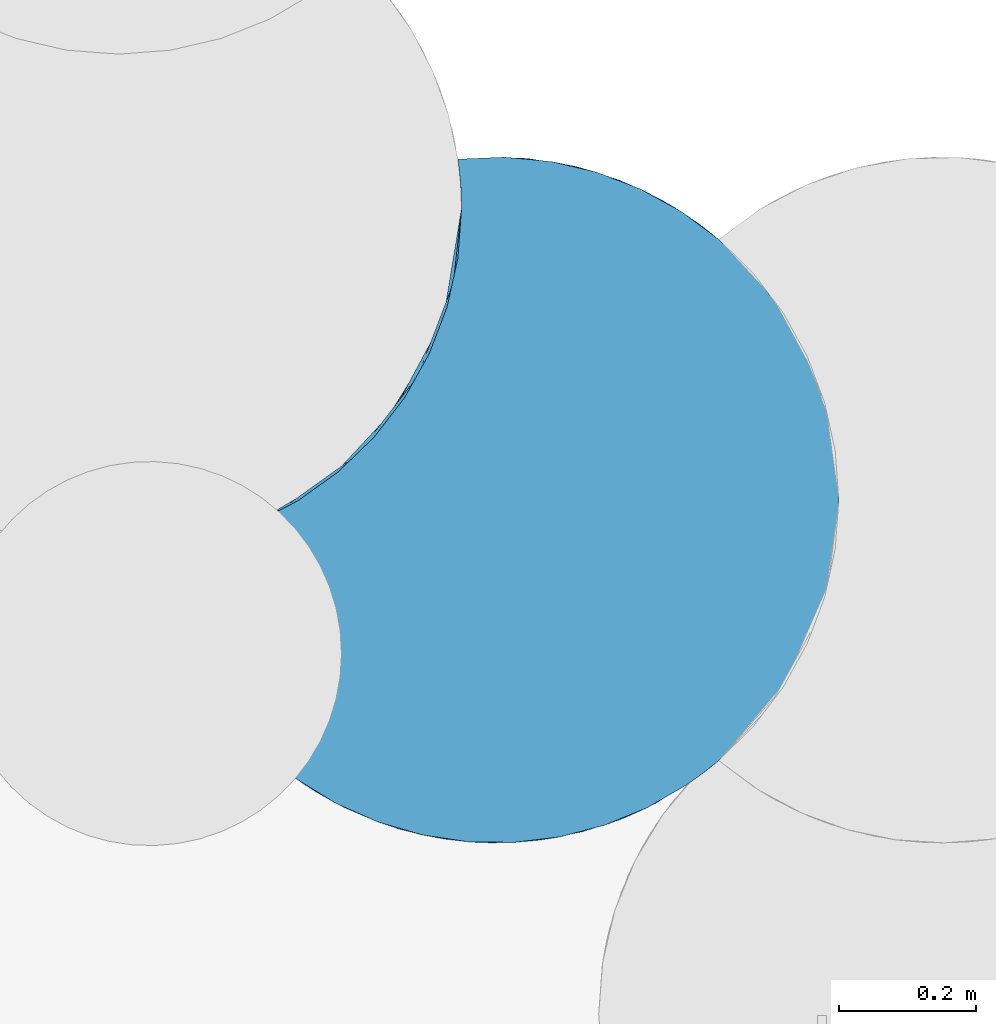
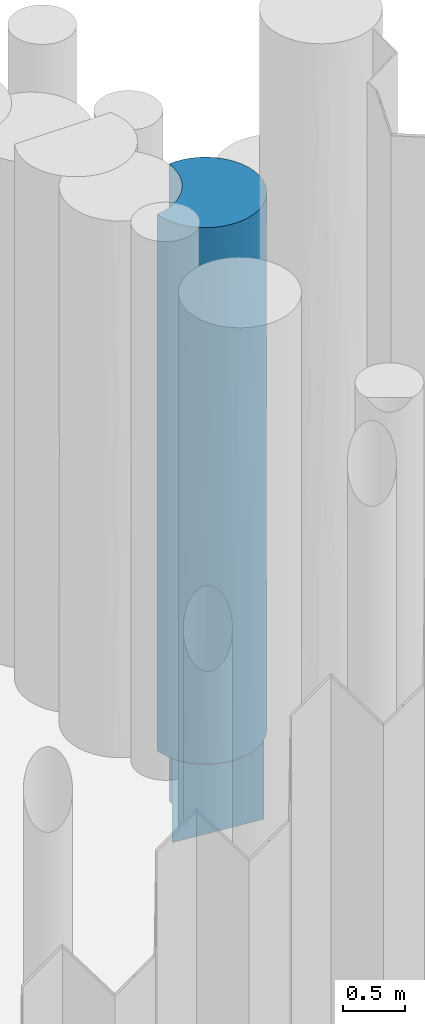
# One storey, part 101 of 104: 1 pile.
"""IFC2X3 building model written with IfcOpenShell, lengths in millimetres."""

from ifc_helpers import new_model, entity, si_unit, converted_unit, derived_unit, direction, frame, origin, place, context, subcontext, project, spatial, faceted_brep, source, transform, mapped, material, element, save


model = new_model("IFC2X3")

# Units and contexts
model_context = context("Model", 3, precision=0.01, world=origin(), true_north=direction((6.12303176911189e-17, 1.0)))
body_context = subcontext(model_context, "Body", "Model", "MODEL_VIEW")
ifc_project = project(units=[si_unit("LENGTHUNIT", "METRE", prefix="MILLI"), si_unit("AREAUNIT", "SQUARE_METRE", prefix="MILLI"), si_unit("VOLUMEUNIT", "CUBIC_METRE"), converted_unit("PLANEANGLEUNIT", "DEGREE", entity("IfcRatioMeasure", 0.0174532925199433), si_unit("PLANEANGLEUNIT", "RADIAN"), dimensions=[0, 0, 0, 0, 0, 0, 0]), si_unit("MASSUNIT", "GRAM", prefix="KILO"), derived_unit("MASSDENSITYUNIT", [(si_unit("MASSUNIT", "GRAM", prefix="KILO"), 1), (si_unit("LENGTHUNIT", "METRE"), -3)]), derived_unit("MOMENTOFINERTIAUNIT", [(si_unit("LENGTHUNIT", "METRE"), 4)]), si_unit("TIMEUNIT", "SECOND"), si_unit("FREQUENCYUNIT", "HERTZ"), si_unit("THERMODYNAMICTEMPERATUREUNIT", "DEGREE_CELSIUS"), derived_unit("THERMALTRANSMITTANCEUNIT", [(si_unit("MASSUNIT", "GRAM", prefix="KILO"), 1), (si_unit("THERMODYNAMICTEMPERATUREUNIT", "KELVIN"), -1), (si_unit("TIMEUNIT", "SECOND"), -3)]), derived_unit("VOLUMETRICFLOWRATEUNIT", [(si_unit("LENGTHUNIT", "METRE"), 3), (si_unit("TIMEUNIT", "SECOND"), -1)]), si_unit("ELECTRICCURRENTUNIT", "AMPERE"), si_unit("ELECTRICVOLTAGEUNIT", "VOLT"), si_unit("POWERUNIT", "WATT"), si_unit("FORCEUNIT", "NEWTON", prefix="KILO"), si_unit("ILLUMINANCEUNIT", "LUX"), si_unit("LUMINOUSFLUXUNIT", "LUMEN"), si_unit("LUMINOUSINTENSITYUNIT", "CANDELA"), derived_unit("USERDEFINED", [(si_unit("MASSUNIT", "GRAM", prefix="KILO"), -1), (si_unit("LENGTHUNIT", "METRE"), -2), (si_unit("TIMEUNIT", "SECOND"), 3), (si_unit("LUMINOUSFLUXUNIT", "LUMEN"), 1)]), derived_unit("LINEARVELOCITYUNIT", [(si_unit("LENGTHUNIT", "METRE"), 1), (si_unit("TIMEUNIT", "SECOND"), -1)]), si_unit("PRESSUREUNIT", "PASCAL"), derived_unit("USERDEFINED", [(si_unit("LENGTHUNIT", "METRE"), -2), (si_unit("MASSUNIT", "GRAM", prefix="KILO"), 1), (si_unit("TIMEUNIT", "SECOND"), -2)]), derived_unit("LINEARFORCEUNIT", [(si_unit("MASSUNIT", "GRAM", prefix="KILO"), 1), (si_unit("LENGTHUNIT", "METRE"), 1), (si_unit("TIMEUNIT", "SECOND"), -2), (si_unit("LENGTHUNIT", "METRE"), -1)]), derived_unit("PLANARFORCEUNIT", [(si_unit("MASSUNIT", "GRAM", prefix="KILO"), 1), (si_unit("LENGTHUNIT", "METRE"), 1), (si_unit("TIMEUNIT", "SECOND"), -2), (si_unit("LENGTHUNIT", "METRE"), -2)])], contexts=[model_context])

# Site, building, storey
site_placement = place(None, origin())
site = spatial("IfcSite", under=ifc_project, at=site_placement, Name="Theater aan de Parade", CompositionType="ELEMENT")
building_placement = place(site_placement, origin())
building = spatial("IfcBuilding", under=site, at=building_placement, Name="Theater aan de Parade", CompositionType="ELEMENT")
storey_placement = place(building_placement, frame((0.0, 0.0, -5520.0)))
storey = spatial("IfcBuildingStorey", under=building, at=storey_placement, Name="-2 kelder", CompositionType="ELEMENT", Elevation=-5520.0)

# Pile
ifc_material = material(Name="00_PBT_MAT_grout")
shared_shape = source(origin(), body_context, "Body", "Brep", [
    faceted_brep([(707.018135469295, 954.358473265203, 0.0), (766.704476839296, 921.518648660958, 0.0), (821.36265625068, 880.872052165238, 0.0), (872.494490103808, 830.35155787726, 0.0), (915.845314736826, 773.024791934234, 0.0), (950.530041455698, 710.072998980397, 0.0), (975.83124868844, 642.796226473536, 0.0), (991.224897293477, 572.585673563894, 0.0), (996.392364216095, 500.886550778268, 0.0), (993.389293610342, 446.168617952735, 0.0), (984.43718693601, 392.202370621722, 0.0), (168.008503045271, 477.683151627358, 0.0), (236.095721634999, 518.367269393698, 0.0), (296.892767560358, 569.306311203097, 0.0), (348.869727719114, 629.218433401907, 0.0), (390.718640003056, 696.595991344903, 0.0), (421.386407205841, 769.743478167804, 0.0), (440.101297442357, 846.820190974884, 0.0), (446.392364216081, 925.886550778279, 0.0), (445.089940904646, 961.952143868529, 0.0), (441.189456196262, 997.829846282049, 0.0), (509.261963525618, 1000.72089675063, 0.0), (577.090346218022, 994.331416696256, 0.0), (643.420762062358, 978.780524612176, 0.0), (847.846543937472, 856.526761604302, 1385.3110779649), (934.320301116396, 742.172940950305, 1046.04929644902), (988.424918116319, 589.790802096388, 4587.25161320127), (972.792385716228, 652.68582454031, 3310.61600225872), (964.391124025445, 676.889848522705, 4699.67580972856), (989.194734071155, 585.419528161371, 1951.92213004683), (996.392364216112, 500.886550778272, 3123.07544567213), (996.392364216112, 500.886550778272, 2342.3065842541), (996.392364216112, 500.886550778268, 1580.0), (996.392364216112, 500.886550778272, 1561.53772283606), (610.520727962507, 987.687040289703, 1377.29445429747), (737.421252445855, 938.956265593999, 2029.36804680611), (737.421253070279, 938.956265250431, 990.511077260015), (711.602573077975, 952.200816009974, 5310.35505503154), (766.704476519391, 921.518648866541, 6320.0), (794.73624068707, 902.123303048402, 4837.29601575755), (895.201288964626, 802.468117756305, 5041.49784810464), (866.574047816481, 836.989988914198, 4241.03674070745), (984.791360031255, 607.967925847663, 1046.05220252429), (984.791359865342, 607.967926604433, 5408.71063909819), (958.00079915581, 693.026220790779, 5511.01543441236), (975.831248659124, 642.796226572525, 6320.0), (909.094213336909, 783.158022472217, 2067.34045126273), (964.391124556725, 676.889847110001, 1921.55622272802), (915.845314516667, 773.024792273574, 6320.0), (991.224897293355, 572.58567356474, 6320.0), (441.189456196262, 997.829846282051, 390.384386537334), (441.189456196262, 997.829846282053, 780.768773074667), (441.189456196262, 997.829846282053, 1180.38438653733), (441.189456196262, 997.829846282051, 1561.53835442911), (821.381352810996, 880.863072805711, 6320.0), (810.618612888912, 889.810533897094, 3684.47840053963), (895.201288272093, 802.468118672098, 3354.7078025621), (832.317709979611, 871.229853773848, 2546.86316218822), (643.420762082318, 978.780524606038, 6320.0), (610.520728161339, 987.687040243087, 5089.40821164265), (577.09034610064, 994.331416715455, 6320.0), (872.494489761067, 830.351558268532, 6320.0), (924.877593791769, 758.569317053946, 4198.10282344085), (509.261963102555, 1000.72089676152, 6320.0), (441.189456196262, 997.829846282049, 4758.46164557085), (441.189456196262, 997.829846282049, 5148.8466840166), (441.189456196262, 997.829846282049, 5539.2312269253), (441.189456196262, 997.829846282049, 5929.61561346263), (441.189456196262, 997.829846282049, 6320.0), (675.635871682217, 967.653907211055, 3984.87145171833), (757.976298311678, 927.001377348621, 2948.60811646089), (619.998549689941, 985.367211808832, 2734.79916427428), (950.530041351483, 710.072999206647, 6320.0), (546.931577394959, 998.32578116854, 4023.22484979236), (441.189456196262, 997.829846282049, 3123.07670885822), (531.855021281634, 999.627365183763, 2956.3585479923), (534.4161233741, 999.438648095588, 2105.7888541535), (707.018135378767, 954.358473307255, 6320.0), (996.392364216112, 500.886550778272, 6320.0), (996.392364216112, 500.886550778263, 5539.23114704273), (996.392364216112, 500.886550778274, 4758.4622771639), (441.189456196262, 997.829846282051, 3940.76917721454), (996.392364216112, 500.886550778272, 3940.76886141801), (996.392364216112, 500.886550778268, 3160.0), (441.189456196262, 997.829846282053, 1580.0), (441.189456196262, 997.829846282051, 1975.0), (441.189456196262, 997.829846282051, 2370.0), (441.189456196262, 997.829846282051, 2765.0), (441.189456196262, 997.829846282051, 3160.0), (441.189456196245, 997.829846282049, 3559.61561346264), (441.189456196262, 997.829846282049, 3959.2312269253), (441.189456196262, 997.829846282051, 4358.8466840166), (154.199016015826, 136.326936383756, 1000.0), (131.602900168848, 158.938240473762, 2216.30286052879), (108.399662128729, 185.511118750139, 1000.0), (276.155044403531, 52.0040238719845, 4383.02823572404), (422.417331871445, 6.38913461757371, 4936.17329295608), (325.903219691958, 30.8509653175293, 5195.44710524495), (88.0810508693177, 212.300564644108, 3295.52340042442), (150.158724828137, 140.161909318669, 3084.02796106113), (234.197241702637, 75.1475253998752, 2599.17716448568), (206.179130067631, 93.7302187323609, 1000.0), (455.819795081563, 2.53540285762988, 1000.0), (489.401113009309, 0.935430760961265, 2599.16979856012), (356.777840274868, 20.7742881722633, 2247.32270978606), (564.542709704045, 5.55279419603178, 3393.57693555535), (465.591360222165, 1.83615437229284, 3488.96910043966), (981.447111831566, 379.552747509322, 4240.770150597), (69.6088564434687, 240.395020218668, 1000.0), (53.0660154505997, 269.668583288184, 2210.15912838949), (263.400822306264, 58.4897363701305, 1000.0), (964.39079323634, 324.882373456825, 5362.80924556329), (975.831077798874, 358.976297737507, 6320.0), (950.529504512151, 291.698936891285, 6320.0), (389.358545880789, 12.4771305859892, 1000.0), (130.476214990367, 160.144167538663, 5363.60449662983), (234.200104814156, 75.1457621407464, 5363.60841032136), (154.203264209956, 136.322948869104, 6320.0), (523.014038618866, 1.59576731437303, 1000.0), (108.403726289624, 185.506118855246, 6320.0), (556.496162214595, 4.51216237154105, 5237.48015263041), (589.715859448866, 9.67302771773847, 6320.0), (523.004751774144, 1.5952722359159, 6320.0), (810.187371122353, 111.614546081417, 2326.63971565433), (869.237423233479, 167.740093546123, 1874.77284272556), (888.48253303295, 190.620053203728, 3050.73412808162), (324.830451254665, 31.2414613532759, 1000.0), (991.224905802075, 429.187486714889, 6320.0), (356.778896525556, 20.7739810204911, 3659.99832314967), (686.270351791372, 38.3432016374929, 2291.41630372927), (590.425201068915, 9.80832320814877, 2484.52457933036), (654.756557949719, 26.6284120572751, 1000.0), (15.7199023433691, 363.213080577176, 1000.0), (38.5280859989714, 299.987813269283, 1000.0), (15.7206132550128, 363.21059852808, 6320.0), (1.5952722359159, 428.943255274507, 5539.2536939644), (53.0685077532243, 269.66380472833, 4760.4139512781), (212.01459423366, 89.633242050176, 3605.59887413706), (1.5952722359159, 428.943255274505, 4123.08771118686), (179.476548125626, 114.151026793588, 4570.9696251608), (107.031142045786, 187.202253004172, 4469.83820328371), (934.319483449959, 259.598676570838, 4595.6665806), (895.199772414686, 199.302978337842, 5362.81319756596), (873.621372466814, 172.712396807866, 4423.29564530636), (69.6120300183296, 240.389820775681, 6320.0), (38.5299694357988, 299.98352082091, 6320.0), (915.844167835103, 228.746541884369, 6320.0), (872.492562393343, 171.419343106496, 6320.0), (512.476878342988, 1.14532933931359, 4297.61421938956), (27.6794948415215, 326.793914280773, 3256.0950631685), (810.187371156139, 111.614546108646, 3659.99991200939), (675.310895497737, 33.9945298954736, 3355.82232091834), (206.182713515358, 93.7276645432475, 6320.0), (263.402879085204, 58.4886531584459, 6320.0), (324.830223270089, 31.2415446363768, 6320.0), (389.355476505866, 12.4778032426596, 6320.0), (589.727883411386, 9.67531224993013, 1000.0), (455.813601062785, 2.53590717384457, 6320.0), (622.514247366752, 17.0546888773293, 4296.48823789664), (686.255586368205, 38.3371405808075, 5237.47807570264), (730.56109632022, 59.111715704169, 4268.68396031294), (810.179764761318, 111.60841466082, 4993.36453239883), (1.5952722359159, 428.943255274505, 2561.52677441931), (716.925627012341, 52.1493448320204, 1000.0), (988.942791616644, 414.897734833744, 5148.84672057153), (821.381397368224, 120.910066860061, 1000.0), (798.727606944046, 102.648680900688, 1000.0), (867.500905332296, 165.806783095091, 1000.0), (798.712347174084, 102.637096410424, 6320.0), (821.381107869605, 120.909819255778, 6320.0), (966.424186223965, 330.387030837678, 1000.0), (924.936029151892, 243.300978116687, 2014.8125301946), (940.626590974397, 271.417703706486, 1000.0), (775.120994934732, 85.7837316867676, 1000.0), (953.927310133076, 299.238904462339, 3791.58491623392), (775.107302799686, 85.7745381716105, 6320.0), (907.468307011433, 216.25245363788, 1000.0), (984.43718693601, 392.202370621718, 1000.0), (976.426736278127, 361.004451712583, 2014.82891627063), (986.17999935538, 400.347640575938, 2904.57122856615), (954.475268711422, 300.486818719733, 2890.67960003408), (1.5952722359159, 428.943255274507, 1000.0), (654.742451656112, 26.6237019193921, 6320.0), (716.91032484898, 52.1418248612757, 6320.0), (1.5952722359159, 428.943255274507, 6320.0), (425.222642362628, 781.936681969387, 6320.0), (399.182734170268, 713.799585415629, 6320.0), (363.506105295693, 650.176327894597, 6320.0), (318.952060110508, 592.421000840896, 6320.0), (266.468840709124, 541.762808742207, 6320.0), (207.173445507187, 499.279908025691, 6320.0), (142.327856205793, 465.876460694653, 6320.0), (73.3121790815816, 442.263391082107, 6320.0), (445.089940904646, 961.952143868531, 6320.0), (446.392364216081, 925.886550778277, 6320.0), (441.071623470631, 853.137458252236, 6320.0), (58.8330712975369, 438.693480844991, 1000.0), (114.554615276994, 455.013470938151, 1000.0), (168.008503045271, 477.683151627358, 1000.0), (144.613661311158, 466.856794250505, 3462.89027366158), (221.385736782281, 508.299859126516, 2589.74370183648), (116.423927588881, 455.685245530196, 2401.19703337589), (261.392001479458, 537.588690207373, 1833.60022846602), (258.180432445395, 535.005238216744, 951.528980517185), (398.190095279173, 711.693156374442, 932.360262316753), (108.25119643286, 452.809687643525, 5364.97726406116), (434.447271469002, 817.247664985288, 5394.74549489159), (382.506191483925, 681.336495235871, 5394.74549481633), (413.446883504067, 747.392640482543, 4674.62849755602), (438.242226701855, 835.977080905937, 4558.62106647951), (194.252615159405, 491.645493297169, 5457.65993910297), (175.360603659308, 481.394092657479, 4606.99242493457), (86.6660309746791, 445.966454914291, 4504.95693680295), (293.63547782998, 566.1335521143, 4970.90147081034), (299.387600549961, 571.775885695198, 2609.64073275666), (255.131502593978, 532.592583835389, 3746.5915760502), (324.071123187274, 598.230091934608, 1465.28008586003), (432.274622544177, 807.910150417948, 1034.59859559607), (437.26665669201, 830.794863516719, 1960.76528676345), (407.505258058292, 732.560662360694, 1853.85644624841), (360.535449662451, 645.733905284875, 2331.66157022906), (419.853032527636, 765.153867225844, 3251.390646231), (446.392364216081, 925.886550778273, 4758.46229406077), (446.392364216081, 925.886550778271, 1598.46229406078), (446.392364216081, 925.886550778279, 1561.53772296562), (446.392364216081, 925.886550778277, 1171.15329222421), (446.392364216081, 925.886550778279, 780.768861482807), (446.392364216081, 925.886550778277, 390.384430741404), (342.283705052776, 620.485099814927, 3317.45787803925), (360.922365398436, 646.306726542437, 4369.9088666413), (446.392364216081, 925.886550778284, 5929.61556925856), (446.392364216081, 925.886550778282, 5520.76886148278), (446.392364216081, 925.886550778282, 5121.15329222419), (446.392364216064, 925.886550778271, 3196.92458812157), (446.392364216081, 925.886550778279, 3123.07544593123), (446.392364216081, 925.886550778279, 2732.69101518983), (446.392364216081, 925.886550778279, 2342.30658444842), (446.392364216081, 925.886550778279, 1951.92215370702), (446.392364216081, 925.886550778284, 4721.5377229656), (446.392364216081, 925.886550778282, 4321.92215370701), (446.392364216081, 925.886550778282, 3922.30658444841), (446.392364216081, 925.886550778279, 3522.69101518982), (444.988949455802, 963.322431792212, 4953.65450872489), (445.054517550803, 962.438661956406, 4691.71349076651), (445.089940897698, 961.95214396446, 6001.00255577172), (445.089940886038, 961.952144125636, 5734.42336148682), (445.089940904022, 961.952143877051, 318.997442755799), (445.089940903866, 961.952143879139, 585.576638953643), (445.089940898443, 961.952143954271, 975.961064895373), (445.124427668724, 961.472065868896, 1366.34549084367), (445.058746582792, 962.380921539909, 3498.59764175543), (444.954448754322, 963.779133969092, 3759.42331697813), (445.172241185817, 960.795494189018, 2147.11434280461), (445.119113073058, 961.546471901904, 2409.83347387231), (445.152050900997, 961.082785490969, 1888.60771044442), (445.068227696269, 962.251137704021, 5470.65093646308), (445.201597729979, 960.373483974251, 2927.883195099), (445.227382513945, 959.998491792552, 5211.85865876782), (445.148560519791, 961.132212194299, 4421.75478249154), (445.155559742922, 961.033026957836, 4031.98195573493), (445.111477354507, 961.653102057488, 1630.12496929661), (445.124854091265, 961.466089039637, 3189.77506559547), (445.147708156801, 961.144271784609, 2668.87956292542)], [[[0, 1, 2, 3, 4, 5, 6, 7, 8, 9, 10, 11, 12, 13, 14, 15, 16, 17, 18, 19, 20, 21, 22, 23]], [[24, 25, 3]], [[26, 27, 28]], [[29, 30, 31, 32, 33]], [[25, 5, 4]], [[34, 35, 36]], [[37, 38, 39]], [[5, 25, 6]], [[2, 24, 3]], [[40, 41, 39]], [[24, 2, 36]], [[36, 2, 1]], [[42, 6, 25]], [[43, 44, 45]], [[36, 1, 0]], [[25, 46, 47]], [[43, 28, 44]], [[40, 48, 44]], [[45, 49, 43]], [[21, 20, 50, 51, 52, 53]], [[6, 42, 7]], [[40, 39, 54]], [[55, 56, 57]], [[58, 59, 60]], [[40, 54, 61]], [[22, 34, 23]], [[56, 62, 27]], [[63, 64, 65, 66, 67, 68]], [[34, 21, 53]], [[63, 60, 59]], [[63, 59, 64]], [[7, 42, 8]], [[69, 70, 71]], [[44, 48, 72]], [[59, 73, 64]], [[34, 36, 23]], [[37, 69, 59]], [[40, 62, 41]], [[40, 61, 48]], [[74, 75, 76]], [[71, 35, 34]], [[42, 25, 47]], [[54, 39, 38]], [[59, 58, 37]], [[46, 57, 56]], [[77, 37, 58]], [[21, 34, 22]], [[73, 59, 69]], [[43, 78, 79, 80]], [[8, 42, 33]], [[62, 40, 28]], [[28, 43, 26]], [[36, 0, 23]], [[24, 36, 35]], [[3, 25, 4]], [[46, 25, 24]], [[29, 27, 30]], [[78, 43, 49]], [[26, 43, 80]], [[57, 46, 24]], [[27, 46, 56]], [[24, 35, 57]], [[57, 70, 55]], [[70, 57, 35]], [[69, 39, 55]], [[76, 71, 34]], [[71, 76, 75]], [[71, 73, 69]], [[75, 81, 73]], [[27, 82, 83, 30]], [[26, 82, 27]], [[27, 47, 46]], [[26, 80, 82]], [[40, 44, 28]], [[45, 44, 72]], [[71, 70, 35]], [[69, 55, 70]], [[29, 42, 47]], [[42, 29, 33]], [[27, 29, 47]], [[38, 37, 77]], [[69, 37, 39]], [[27, 62, 28]], [[41, 56, 55]], [[56, 41, 62]], [[39, 41, 55]], [[34, 53, 76]], [[76, 53, 84, 85, 86, 87, 74]], [[73, 71, 75]], [[75, 74, 88, 89, 81]], [[73, 81, 90, 91, 64]], [[92, 93, 94]], [[95, 96, 97]], [[98, 93, 99]], [[100, 93, 101]], [[102, 103, 104]], [[103, 105, 106]], [[107, 83, 82, 80]], [[108, 94, 109]], [[110, 100, 101]], [[111, 112, 113]], [[102, 104, 114]], [[115, 116, 117]], [[94, 93, 109]], [[103, 102, 118]], [[115, 117, 119]], [[120, 121, 122]], [[123, 124, 125]], [[100, 110, 104]], [[126, 104, 110]], [[79, 78, 127]], [[100, 104, 128]], [[129, 130, 131]], [[132, 133, 109]], [[134, 135, 136]], [[93, 98, 109]], [[128, 95, 137]], [[135, 138, 136]], [[139, 115, 140]], [[133, 108, 109]], [[141, 142, 143]], [[144, 145, 136]], [[142, 146, 147]], [[116, 115, 139]], [[115, 144, 136]], [[106, 105, 148]], [[149, 136, 138]], [[123, 150, 151]], [[116, 152, 117]], [[149, 109, 98]], [[153, 152, 116]], [[154, 97, 155]], [[130, 156, 131]], [[96, 157, 155]], [[158, 159, 120]], [[160, 161, 159]], [[162, 109, 149]], [[129, 131, 163]], [[164, 112, 111]], [[165, 123, 166]], [[124, 165, 167]], [[168, 161, 169]], [[170, 171, 172]], [[123, 129, 173]], [[174, 143, 125]], [[175, 161, 168]], [[173, 166, 123]], [[171, 176, 172]], [[160, 151, 150]], [[177, 10, 9]], [[116, 95, 97]], [[95, 116, 139]], [[177, 9, 8]], [[178, 170, 177]], [[177, 8, 33, 32]], [[179, 180, 178]], [[170, 178, 171]], [[146, 142, 113]], [[176, 171, 124]], [[132, 162, 181]], [[178, 180, 171]], [[130, 151, 105]], [[136, 145, 134]], [[182, 120, 159]], [[96, 120, 157]], [[173, 129, 163]], [[182, 159, 183]], [[179, 32, 31, 30, 83]], [[177, 32, 178]], [[182, 121, 120]], [[134, 184, 135]], [[183, 159, 175]], [[142, 169, 161]], [[160, 159, 158]], [[176, 124, 167]], [[157, 120, 122]], [[142, 141, 111]], [[144, 115, 119]], [[127, 112, 164]], [[130, 118, 156]], [[158, 148, 105]], [[111, 113, 142]], [[175, 159, 161]], [[80, 79, 164]], [[125, 171, 180]], [[140, 115, 136]], [[116, 97, 153]], [[107, 111, 141]], [[132, 109, 162]], [[169, 142, 147]], [[143, 142, 161]], [[141, 174, 107]], [[174, 179, 107]], [[125, 180, 174]], [[123, 125, 150]], [[137, 95, 139]], [[96, 95, 128]], [[101, 93, 92]], [[99, 100, 137]], [[161, 150, 143]], [[125, 143, 150]], [[136, 149, 98]], [[138, 162, 149]], [[139, 140, 99]], [[128, 137, 100]], [[151, 160, 158]], [[161, 160, 150]], [[105, 151, 158]], [[151, 129, 123]], [[158, 120, 148]], [[130, 105, 103]], [[120, 96, 148]], [[106, 96, 128]], [[136, 98, 140]], [[140, 98, 99]], [[32, 179, 178]], [[107, 179, 83]], [[96, 106, 148]], [[104, 106, 128]], [[155, 97, 96]], [[153, 97, 154]], [[130, 103, 118]], [[151, 130, 129]], [[114, 104, 126]], [[104, 103, 106]], [[125, 124, 171]], [[165, 124, 123]], [[164, 107, 80]], [[127, 164, 79]], [[107, 164, 111]], [[174, 141, 143]], [[179, 174, 180]], [[100, 99, 93]], [[99, 137, 139]], [[185, 186, 187, 188, 189, 190, 191, 192, 184, 134, 145, 144, 119, 117, 152, 153, 154, 155, 157, 122, 121, 182, 183, 175, 168, 169, 147, 146, 113, 112, 127, 78, 49, 45, 72, 48, 61, 54, 38, 77, 58, 60, 63, 68, 193, 194, 195]], [[132, 181, 196, 197, 198, 177, 170, 172, 176, 167, 165, 166, 173, 163, 131, 156, 118, 102, 114, 126, 110, 101, 92, 94, 108, 133]], [[198, 11, 10, 177]], [[199, 200, 201]], [[202, 203, 198]], [[12, 11, 198]], [[204, 16, 15]], [[205, 135, 192]], [[162, 196, 181]], [[185, 206, 207, 186]], [[15, 14, 204]], [[200, 198, 201]], [[208, 206, 209]], [[195, 194, 206]], [[198, 203, 12]], [[210, 211, 205]], [[211, 212, 205]], [[189, 188, 213]], [[214, 200, 215]], [[192, 191, 205]], [[197, 196, 201]], [[203, 216, 13]], [[138, 135, 212]], [[210, 191, 190]], [[17, 217, 18]], [[218, 217, 219]], [[216, 14, 13]], [[16, 217, 17]], [[220, 216, 214]], [[216, 220, 219]], [[219, 217, 204]], [[135, 184, 192]], [[205, 191, 210]], [[207, 206, 208]], [[221, 218, 219]], [[206, 222, 209]], [[217, 223, 224, 225, 226, 227, 18]], [[189, 210, 190]], [[211, 213, 215]], [[228, 221, 220]], [[207, 213, 188]], [[187, 186, 207]], [[207, 208, 229]], [[217, 16, 204]], [[223, 217, 218]], [[185, 195, 206]], [[206, 194, 230, 231, 232, 222]], [[187, 207, 188]], [[221, 228, 229]], [[229, 213, 207]], [[213, 229, 215]], [[215, 200, 199]], [[211, 199, 212]], [[205, 212, 135]], [[199, 162, 138]], [[212, 199, 138]], [[162, 199, 201]], [[229, 228, 215]], [[215, 199, 211]], [[162, 201, 196]], [[197, 201, 198]], [[204, 216, 219]], [[216, 204, 14]], [[218, 233, 234, 235, 236, 237, 223]], [[209, 222, 238, 239, 240, 241, 233]], [[218, 221, 233]], [[229, 208, 221]], [[210, 213, 211]], [[213, 210, 189]], [[209, 221, 208]], [[221, 209, 233]], [[219, 220, 221]], [[228, 220, 214]], [[228, 214, 215]], [[202, 200, 214]], [[12, 203, 13]], [[216, 203, 202]], [[216, 202, 214]], [[200, 202, 198]], [[242, 64, 243]], [[244, 193, 68, 67, 66, 245]], [[246, 247, 248, 52, 51, 50, 20, 19]], [[225, 224, 249]], [[65, 64, 242]], [[250, 251, 89]], [[247, 246, 19, 18, 227, 226, 225, 248]], [[230, 194, 193, 244, 245, 231]], [[252, 236, 253]], [[85, 254, 252]], [[245, 255, 231]], [[252, 253, 86]], [[235, 234, 256]], [[243, 238, 242]], [[257, 242, 232]], [[91, 258, 243]], [[251, 90, 81, 89]], [[259, 258, 91]], [[84, 249, 260]], [[237, 236, 252]], [[260, 249, 224]], [[251, 250, 241]], [[261, 256, 234]], [[262, 235, 256]], [[88, 256, 261]], [[240, 259, 251]], [[66, 255, 245]], [[52, 248, 249]], [[225, 249, 248]], [[249, 84, 53, 52]], [[85, 84, 254]], [[254, 260, 224]], [[232, 231, 257]], [[255, 66, 65]], [[237, 252, 254]], [[85, 252, 86]], [[87, 86, 262]], [[262, 253, 236]], [[254, 224, 223, 237]], [[84, 260, 254]], [[262, 236, 235]], [[256, 88, 74, 87]], [[89, 88, 250]], [[261, 234, 233, 241]], [[253, 262, 86]], [[262, 256, 87]], [[255, 65, 257]], [[242, 238, 222, 232]], [[239, 238, 258]], [[243, 64, 91]], [[242, 257, 65]], [[255, 257, 231]], [[90, 251, 259]], [[240, 251, 241]], [[90, 259, 91]], [[259, 240, 239]], [[250, 261, 241]], [[261, 250, 88]], [[243, 258, 238]], [[239, 258, 259]]]),
])
pile_placement = place(storey_placement, frame((86853.6076357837, 17703.0894683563, -3840.0)))
element("IfcPile", 1, at=pile_placement, inside=storey, material=ifc_material, Name="17_PBT_SFO_grondkering_rond:Ø1000 (grondkering)", ObjectType="17_PBT_SFO_grondkering_rond:Ø1000 (grondkering)", PredefinedType="NOTDEFINED", context=body_context, shape_type="MappedRepresentation", body=[
    mapped(shared_shape, transform((0.0, 0.0, 0.0), scale=1.0)),
])

save(model, "model.ifc")
